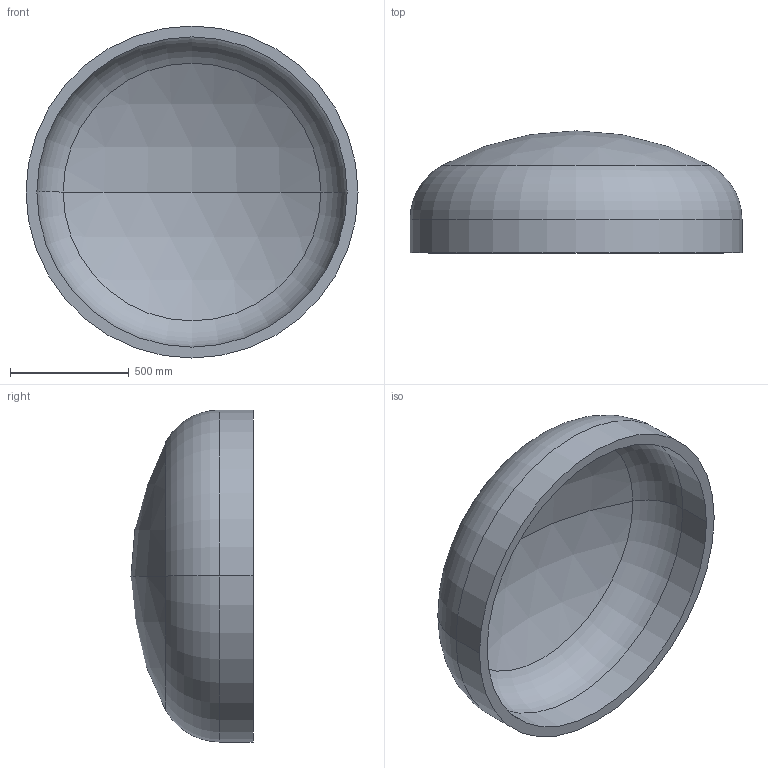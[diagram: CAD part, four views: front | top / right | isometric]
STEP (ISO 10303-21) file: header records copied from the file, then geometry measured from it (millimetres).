
FILE_DESCRIPTION (( 'STEP AP203' ), '1' );
FILE_NAME ('DIN 28013 Korbbogenform_-_Boden DIN 28013 - 1400 x 140 - I - s=46.step', '2016-07-01T10:19:24', ( '' ), ( '' ), 'SwSTEP 2.0', 'SolidWorks 2013', '' );
FILE_SCHEMA (( 'CONFIG_CONTROL_DESIGN' ));
Length unit declared in the file: millimetre
Products named in the file (1): DIN 28013 Korbbogenform_-_Boden DIN 28013 - 1400 x 140 - I - s=46
Bounding box: 1400 x 514.61 x 1400 mm (x, y, z)
Volume: 121302895.9 mm3; surface area: 5474140.2 mm2
Topology: 1 solids, 1 shells, 13 faces, 24 edges, 14 vertices
Faces by surface type: torus 4, cylinder 4, sphere 4, plane 1
Entity records: 407 total; most frequent: DIRECTION 72, CARTESIAN_POINT 52, ORIENTED_EDGE 48, AXIS2_PLACEMENT_3D 34, EDGE_CURVE 24, CIRCLE 20, EDGE_LOOP 14, VERTEX_POINT 14
